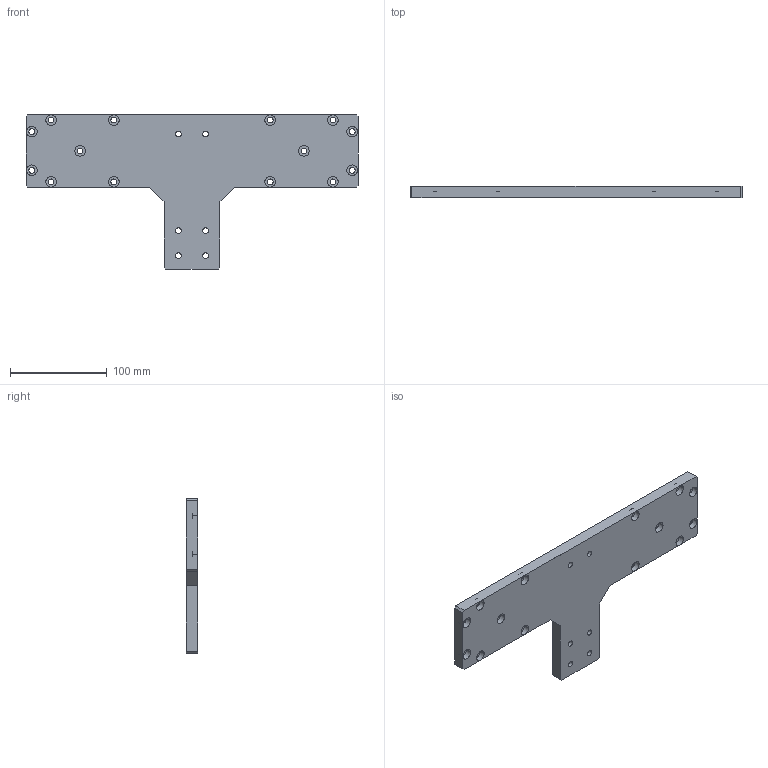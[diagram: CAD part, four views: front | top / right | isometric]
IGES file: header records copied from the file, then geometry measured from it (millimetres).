
Start section:  PTC IGES file: k60-k80m-st.igs
Global section: file name: k60-k80m-st.igs; native system: Pro/ENGINEER by Parametric Technology Corporation; preprocessor: 2008230; author: Owner; organization: Unknown; date: 20121211.151635; units: millimetre
Bounding box: 344 x 12 x 160 mm (x, y, z)
Surface area: 78964.6 mm2 (no closed solid volume)
Topology: 0 solids, 0 shells, 118 faces, 608 edges, 604 vertices
Faces by surface type: revolution 80, bspline 38
